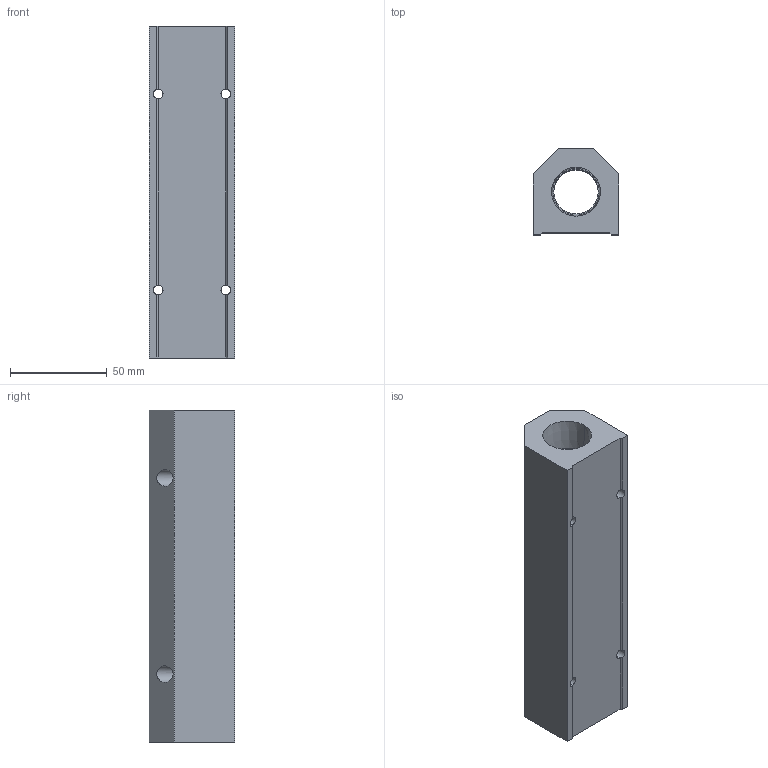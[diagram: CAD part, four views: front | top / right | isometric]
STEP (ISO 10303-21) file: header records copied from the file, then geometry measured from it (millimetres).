
FILE_DESCRIPTION (( 'STEP AP214' ), '1' );
FILE_NAME ('ALM6C-N4N12-172R.step', '2022-02-06T14:06:13', ( '' ), ( '' ), 'SwSTEP 2.0', 'SolidWorks 2020', '' );
FILE_SCHEMA (( 'AUTOMOTIVE_DESIGN' ));
Length unit declared in the file: millimetre
Products named in the file (1): ALM6C-N4N12-172R
Bounding box: 44.5 x 44.5 x 172 mm (x, y, z)
Volume: 219792.5 mm3; surface area: 46832.1 mm2
Topology: 1 solids, 1 shells, 278 faces, 734 edges, 484 vertices
Faces by surface type: plane 195, bspline 39, cone 22, cylinder 22
Entity records: 14295 total; most frequent: CARTESIAN_POINT 5172, ORIENTED_EDGE 1468, DIRECTION 1160, EDGE_CURVE 734, VECTOR 560, LINE 560, VERTEX_POINT 484, EDGE_LOOP 326
